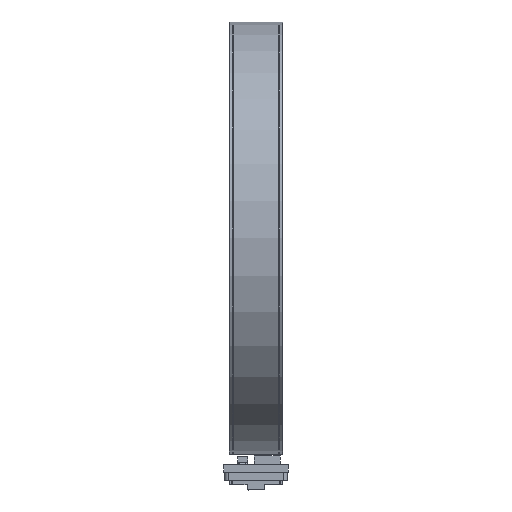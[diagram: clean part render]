
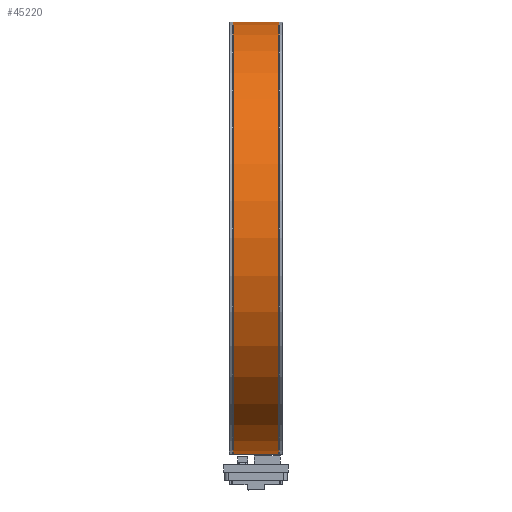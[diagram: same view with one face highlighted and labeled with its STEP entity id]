
A CAD part, left-side view. The second image highlights one B-rep face of the part: STEP entity #45220.
In plain terms, the highlighted cylindrical face has radius 57 mm (diameter 114 mm), a partial arc.
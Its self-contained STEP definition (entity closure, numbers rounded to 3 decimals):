
#2971 = DIRECTION ( 'NONE',  ( 0., 1., 0. ) ) ;
#3842 = VECTOR ( 'NONE', #2971, 1000. ) ;
#4251 = DIRECTION ( 'NONE',  ( 0., 1., 0. ) ) ;
#5667 = CARTESIAN_POINT ( 'NONE',  ( 0., 1., 0. ) ) ;
#7750 = EDGE_CURVE ( 'NONE', #23635, #52916, #10685, .T. ) ;
#7871 = DIRECTION ( 'NONE',  ( 0., 1., 0. ) ) ;
#8329 = AXIS2_PLACEMENT_3D ( 'NONE', #45528, #7871, #65268 ) ;
#8673 = EDGE_CURVE ( 'NONE', #39063, #81075, #35491, .T. ) ;
#9649 = AXIS2_PLACEMENT_3D ( 'NONE', #5667, #70769, #83734 ) ;
#10685 = LINE ( 'NONE', #69317, #17650 ) ;
#11483 = EDGE_CURVE ( 'NONE', #23635, #39063, #62968, .T. ) ;
#16877 = DIRECTION ( 'NONE',  ( 0., 0., -1. ) ) ;
#17460 = ORIENTED_EDGE ( 'NONE', *, *, #11483, .T. ) ;
#17650 = VECTOR ( 'NONE', #4251, 1000. ) ;
#19499 = ORIENTED_EDGE ( 'NONE', *, *, #49343, .T. ) ;
#20923 = EDGE_LOOP ( 'NONE', ( #44144, #17460, #21002, #19499 ) ) ;
#21002 = ORIENTED_EDGE ( 'NONE', *, *, #8673, .T. ) ;
#23635 = VERTEX_POINT ( 'NONE', #74804 ) ;
#23686 = DIRECTION ( 'NONE',  ( 0., -1., 0. ) ) ;
#26579 = CARTESIAN_POINT ( 'NONE',  ( 0., 13., 57. ) ) ;
#34632 = CARTESIAN_POINT ( 'NONE',  ( 0., -15., 57. ) ) ;
#35491 = LINE ( 'NONE', #34632, #3842 ) ;
#39063 = VERTEX_POINT ( 'NONE', #72718 ) ;
#44144 = ORIENTED_EDGE ( 'NONE', *, *, #7750, .F. ) ;
#45220 = ADVANCED_FACE ( 'NONE', ( #52866 ), #66107, .T. ) ;
#45528 = CARTESIAN_POINT ( 'NONE',  ( 0., -15., 0. ) ) ;
#48687 = CIRCLE ( 'NONE', #54041, 57. ) ;
#49343 = EDGE_CURVE ( 'NONE', #81075, #52916, #48687, .T. ) ;
#52866 = FACE_OUTER_BOUND ( 'NONE', #20923, .T. ) ;
#52916 = VERTEX_POINT ( 'NONE', #68571 ) ;
#54041 = AXIS2_PLACEMENT_3D ( 'NONE', #83309, #23686, #16877 ) ;
#62968 = CIRCLE ( 'NONE', #9649, 57. ) ;
#65268 = DIRECTION ( 'NONE',  ( 0., 0., 1. ) ) ;
#66107 = CYLINDRICAL_SURFACE ( 'NONE', #8329, 57. ) ;
#68571 = CARTESIAN_POINT ( 'NONE',  ( 0., 13., -57. ) ) ;
#69317 = CARTESIAN_POINT ( 'NONE',  ( 0., -15., -57. ) ) ;
#70769 = DIRECTION ( 'NONE',  ( 0., 1., 0. ) ) ;
#72718 = CARTESIAN_POINT ( 'NONE',  ( 0., 1., 57. ) ) ;
#74804 = CARTESIAN_POINT ( 'NONE',  ( 0., 1., -57. ) ) ;
#81075 = VERTEX_POINT ( 'NONE', #26579 ) ;
#83309 = CARTESIAN_POINT ( 'NONE',  ( 0., 13., 0. ) ) ;
#83734 = DIRECTION ( 'NONE',  ( 0., 0., 1. ) ) ;
